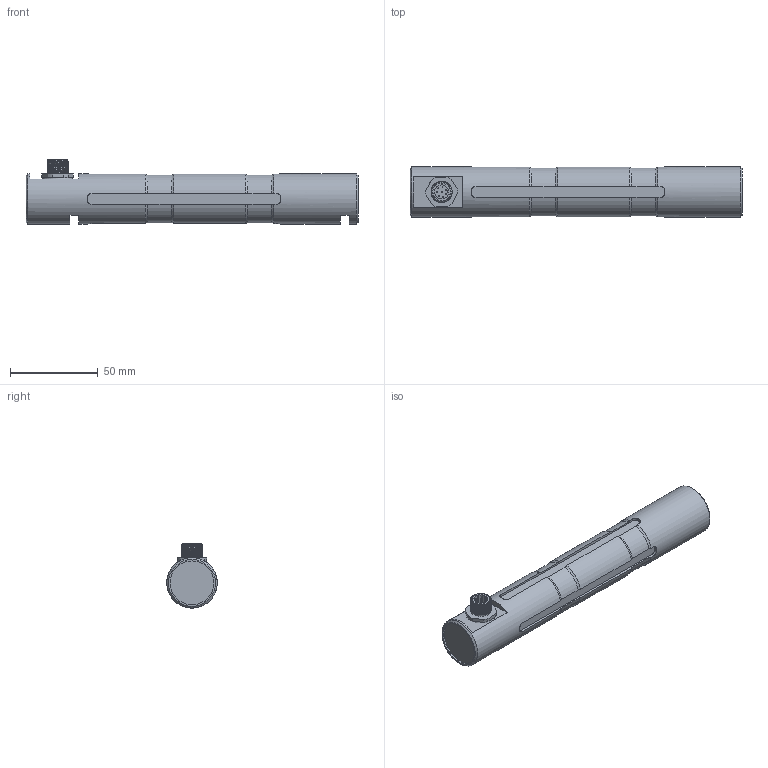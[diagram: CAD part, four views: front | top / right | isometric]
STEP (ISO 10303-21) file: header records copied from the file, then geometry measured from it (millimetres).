
FILE_DESCRIPTION(/* description */ ('Alibre Inc.'),/* implementation_level */ '2;1');
FILE_NAME(/* name */ 'export1',/* time_stamp */ '2014-08-27T15:06:39+02:00',/* author */ (''),/* organization */ (''),/* preprocessor_version */ 'ST-DEVELOPER v14',/* originating_system */ 'Alibre',/* authorisation */ '');
FILE_SCHEMA (('CONFIG_CONTROL_DESIGN'));
Length unit declared in the file: centimetre
Products named in the file (6): ID_1; ID_2; ID_3
Bounding box: 189 x 28.7 x 36.53 mm (x, y, z)
Volume: 114749.4 mm3; surface area: 23563.3 mm2
Topology: 4 solids, 4 shells, 230 faces, 583 edges, 379 vertices
Faces by surface type: plane 110, cylinder 74, bspline 23, torus 17, cone 6
Full cylindrical faces by diameter (mm): 0.474 x7, 0.496 x1, 8 x2, 10 x4, 11.5 x1, 13 x1, 14.376 x1, 25 x1, 28.7 x2
Entity records: 17096 total; most frequent: CARTESIAN_POINT 11881, ORIENTED_EDGE 1064, DIRECTION 701, EDGE_CURVE 531, VERTEX_POINT 357, FACE_BOUND 277, EDGE_LOOP 276, AXIS2_PLACEMENT_3D 275
